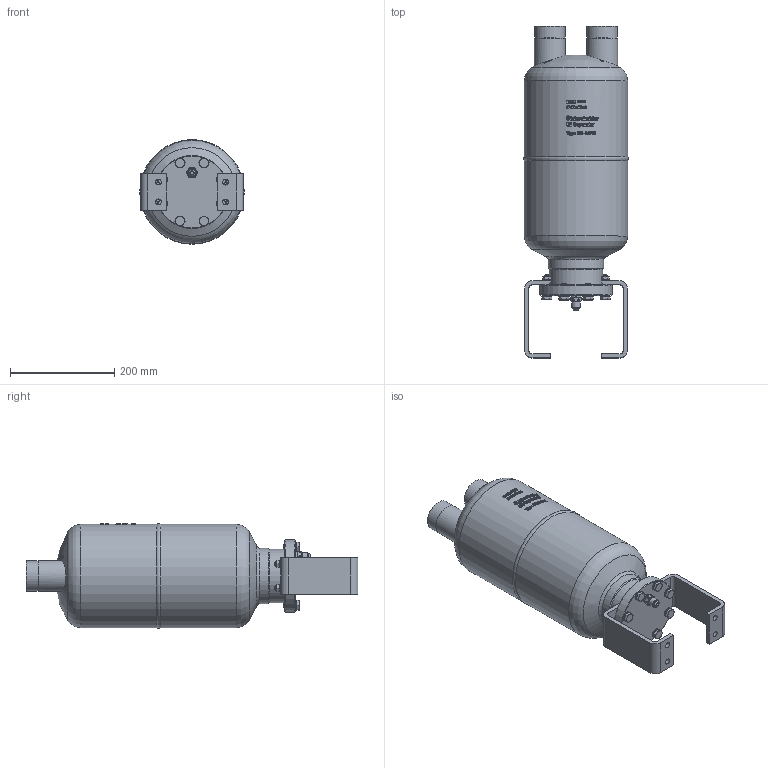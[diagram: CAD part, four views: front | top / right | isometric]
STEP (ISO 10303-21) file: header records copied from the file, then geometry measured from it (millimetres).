
FILE_DESCRIPTION(/* description */ (''),/* implementation_level */ '2;1');
FILE_NAME(/* name */ 'P:\OS\OS-54FH\OS-54FH.stp',/* time_stamp */ '2017-05-29T14:52:25+02:00',/* author */ ('Goerner'),/* organization */ (''),/* preprocessor_version */ 'ST-DEVELOPER v16.1',/* originating_system */ 'Autodesk Inventor 2016',/* authorisation */ '');
FILE_SCHEMA (('AUTOMOTIVE_DESIGN { 1 0 10303 214 3 1 1 }'));
Length unit declared in the file: millimetre
Products named in the file (1): OS-54FH_AG-Kunde
Bounding box: 200.07 x 636.36 x 200.07 mm (x, y, z)
Volume: 12360569.2 mm3; surface area: 454698.9 mm2
Topology: 1 solids, 5 shells, 1351 faces, 3561 edges, 2325 vertices
Faces by surface type: plane 717, bspline 316, cylinder 185, cone 119, sphere 8, torus 6
Full cylindrical faces by diameter (mm): 7.2 x1, 8 x8, 8.376 x4, 8.5 x4, 9.188 x8, 10 x12, 10.5 x8, 11 x4, 13.5 x1, 15.4 x8, 15.7 x1, 19 x1, 54.3 x2, 59 x2, 59.5 x2, 100 x1, 100.1 x1, 102 x1, 106 x1, 107.2 x1, 107.7 x1, 107.9 x1, 135 x1, 140 x1, 191.2 x1, 192 x1, 198 x2
Entity records: 47590 total; most frequent: CARTESIAN_POINT 16196, ORIENTED_EDGE 6790, DIRECTION 5704, EDGE_CURVE 3395, VERTEX_POINT 2283, AXIS2_PLACEMENT_3D 2121, EDGE_LOOP 1636, LINE 1462
